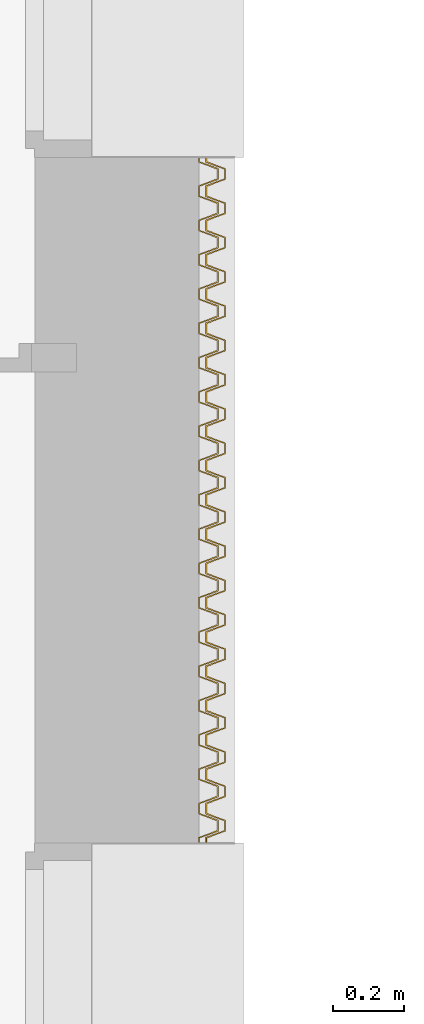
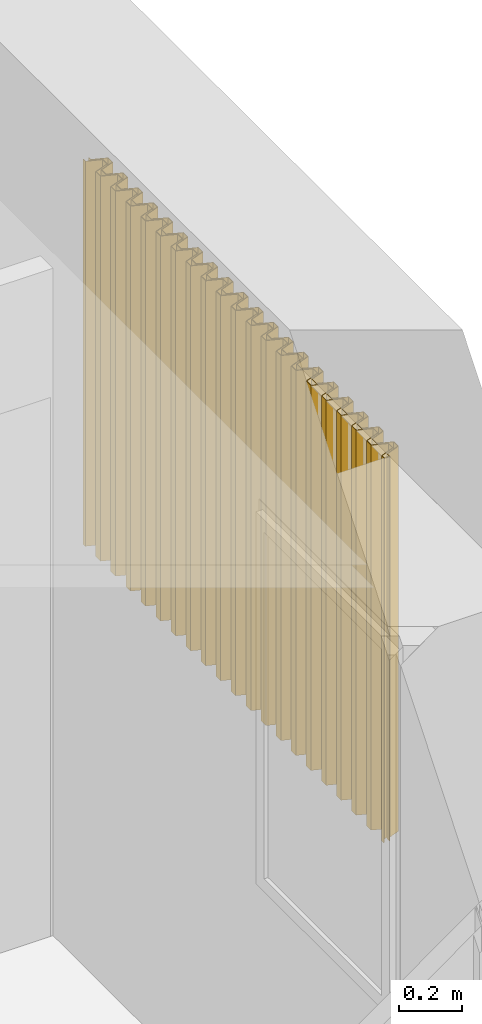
# One storey, part 84 of 91: 2 coverings.
"""IFC2X3 building model written with IfcOpenShell, lengths in metres."""

from ifc_helpers import new_model, entity, si_unit, converted_unit, derived_unit, money_unit, direction, frame, origin_with_axes, place, context, subcontext, project, spatial, faceted_brep, source, transform, mapped, material, type_object, element, save


model = new_model("IFC2X3")

# Units and contexts
model_context = context("Model", 3, precision=1e-05, world=origin_with_axes(), true_north=direction((0.0, 1.0)))
body_context = subcontext(model_context, "Body", "Model", "MODEL_VIEW")
ifc_project = project(units=[si_unit("LENGTHUNIT", "METRE"), si_unit("AREAUNIT", "SQUARE_METRE"), si_unit("VOLUMEUNIT", "CUBIC_METRE"), converted_unit("PLANEANGLEUNIT", "DEGREE", entity("IfcPlaneAngleMeasure", 0.0174532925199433), si_unit("PLANEANGLEUNIT", "RADIAN"), dimensions=[0, 0, 0, 0, 0, 0, 0]), money_unit("EUR"), converted_unit("TIMEUNIT", "Year", entity("IfcTimeMeasure", 31557600.0), si_unit("TIMEUNIT", "SECOND"), dimensions=[0, 0, 1, 0, 0, 0, 0]), si_unit("MASSUNIT", "GRAM", prefix="KILO"), si_unit("THERMODYNAMICTEMPERATUREUNIT", "DEGREE_CELSIUS"), si_unit("LUMINOUSINTENSITYUNIT", "LUMEN"), si_unit("ENERGYUNIT", "JOULE", prefix="MEGA"), derived_unit("THERMALCONDUCTANCEUNIT", [(si_unit("POWERUNIT", "WATT"), 1), (si_unit("LENGTHUNIT", "METRE"), -1), (si_unit("THERMODYNAMICTEMPERATUREUNIT", "KELVIN"), -1)]), derived_unit("SPECIFICHEATCAPACITYUNIT", [(si_unit("ENERGYUNIT", "JOULE"), 1), (si_unit("MASSUNIT", "GRAM", prefix="KILO"), -1), (si_unit("THERMODYNAMICTEMPERATUREUNIT", "KELVIN"), -1)]), derived_unit("MASSDENSITYUNIT", [(si_unit("MASSUNIT", "GRAM", prefix="KILO"), 1), (si_unit("VOLUMEUNIT", "CUBIC_METRE"), -1)])], contexts=[model_context])

# Site, building, storey
site_placement = place(None, origin_with_axes())
site = spatial("IfcSite", under=ifc_project, at=site_placement, Name="Site", CompositionType="ELEMENT")
building_placement = place(site_placement, origin_with_axes())
building = spatial("IfcBuilding", under=site, at=building_placement, Name="Bâtiment", CompositionType="ELEMENT")
storey_placement = place(building_placement, origin_with_axes())
storey = spatial("IfcBuildingStorey", under=building, at=storey_placement, Name="RDC", CompositionType="ELEMENT", Elevation=0.0)

# Coverings
ifc_material = material(Name="Métal - Acier")
covering_type = type_object("IfcCoveringType", Name="Tôle profilée 27", PredefinedType="NOTDEFINED")
shared_shape = source(origin_with_axes(), body_context, "Body", "Brep", [
    faceted_brep([(0.0, 0.0, 0.0), (0.0, 0.0, 1.5), (0.0, 0.01500000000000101, 1.5), (0.0, 0.01500000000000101, 0.0), (0.002, 0.0, 0.0), (0.002, 0.0, 1.5), (0.001999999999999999, 0.0136112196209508, 1.5), (0.05399999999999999, 0.0329999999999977, 1.5), (0.05399999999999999, 0.06299999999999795, 1.5), (0.001999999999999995, 0.0823887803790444, 1.5), (0.001999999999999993, 0.1096112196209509, 1.5), (0.05399999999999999, 0.1289999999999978, 1.5), (0.05399999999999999, 0.158999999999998, 1.5), (0.001999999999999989, 0.1783887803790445, 1.5), (0.001999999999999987, 0.205611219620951, 1.5), (0.05399999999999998, 0.2249999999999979, 1.5), (0.05399999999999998, 0.2549999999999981, 1.5), (0.001999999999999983, 0.2743887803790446, 1.5), (0.001999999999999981, 0.3016112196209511, 1.5), (0.05399999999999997, 0.320999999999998, 1.5), (0.05399999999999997, 0.3509999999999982, 1.5), (0.001999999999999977, 0.3703887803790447, 1.5), (0.001999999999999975, 0.3976112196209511, 1.5), (0.05399999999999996, 0.416999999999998, 1.5), (0.05399999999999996, 0.4469999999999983, 1.5), (0.001999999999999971, 0.4663887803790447, 1.5), (0.00199999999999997, 0.4936112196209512, 1.5), (0.05399999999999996, 0.5129999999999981, 1.5), (0.05399999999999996, 0.5429999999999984, 1.5), (0.001999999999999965, 0.5623887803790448, 1.5), (0.001999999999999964, 0.5896112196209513, 1.5), (0.05399999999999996, 0.6089999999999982, 1.5), (0.05399999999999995, 0.6389999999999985, 1.5), (0.00199999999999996, 0.6583887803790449, 1.5), (0.001999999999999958, 0.6856112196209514, 1.5), (0.05399999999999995, 0.7049999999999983, 1.5), (0.05399999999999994, 0.7349999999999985, 1.5), (0.001999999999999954, 0.754388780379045, 1.5), (0.001999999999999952, 0.7816112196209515, 1.5), (0.05399999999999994, 0.8009999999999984, 1.5), (0.05399999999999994, 0.8309999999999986, 1.5), (0.001999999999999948, 0.8503887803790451, 1.5), (0.001999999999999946, 0.8776112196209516, 1.5), (0.05399999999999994, 0.8969999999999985, 1.5), (0.05399999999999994, 0.9269999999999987, 1.5), (0.001999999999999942, 0.9463887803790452, 1.5), (0.00199999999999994, 0.9736112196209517, 1.5), (0.05399999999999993, 0.9929999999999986, 1.5), (0.05399999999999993, 1.022999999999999, 1.5), (0.001999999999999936, 1.042388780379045, 1.5), (0.001999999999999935, 1.069611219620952, 1.5), (0.05399999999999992, 1.088999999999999, 1.5), (0.05399999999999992, 1.118999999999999, 1.5), (0.00199999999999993, 1.138388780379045, 1.5), (0.001999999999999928, 1.165611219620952, 1.5), (0.05399999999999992, 1.184999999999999, 1.5), (0.05399999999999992, 1.214999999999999, 1.5), (0.001999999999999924, 1.234388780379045, 1.5), (0.001999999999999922, 1.261611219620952, 1.5), (0.05399999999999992, 1.280999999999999, 1.5), (0.05399999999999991, 1.310999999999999, 1.5), (0.001999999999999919, 1.330388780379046, 1.5), (0.001999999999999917, 1.357611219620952, 1.5), (0.05399999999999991, 1.376999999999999, 1.5), (0.05399999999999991, 1.406999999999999, 1.5), (0.001999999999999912, 1.426388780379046, 1.5), (0.001999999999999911, 1.453611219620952, 1.5), (0.0539999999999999, 1.472999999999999, 1.5), (0.0539999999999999, 1.502999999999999, 1.5), (0.001999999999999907, 1.522388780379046, 1.5), (0.001999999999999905, 1.549611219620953, 1.5), (0.0539999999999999, 1.569, 1.5), (0.0539999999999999, 1.598999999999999, 1.5), (0.001999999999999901, 1.618388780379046, 1.5), (0.001999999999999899, 1.645611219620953, 1.5), (0.05399999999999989, 1.665, 1.5), (0.05399999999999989, 1.694999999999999, 1.5), (0.001999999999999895, 1.714388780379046, 1.5), (0.001999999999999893, 1.741611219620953, 1.5), (0.05399999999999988, 1.761, 1.5), (0.05399999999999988, 1.790999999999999, 1.5), (0.001999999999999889, 1.810388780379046, 1.5), (0.001999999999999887, 1.837611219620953, 1.5), (0.05399999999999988, 1.857, 1.5), (0.05399999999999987, 1.886999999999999, 1.5), (0.001999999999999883, 1.906388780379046, 1.5), (0.001999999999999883, 1.919160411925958, 1.5), (0.0, 1.919160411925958, 1.5), (0.0, 1.905000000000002, 1.5), (0.05199999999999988, 1.885611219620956, 1.5), (0.05199999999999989, 1.858388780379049, 1.5), (0.0, 1.839000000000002, 1.5), (0.0, 1.809000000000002, 1.5), (0.05199999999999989, 1.789611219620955, 1.5), (0.05199999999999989, 1.762388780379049, 1.5), (0.0, 1.743000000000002, 1.5), (0.0, 1.713000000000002, 1.5), (0.05199999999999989, 1.693611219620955, 1.5), (0.05199999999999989, 1.666388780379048, 1.5), (0.0, 1.647000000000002, 1.5), (0.0, 1.617000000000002, 1.5), (0.0519999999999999, 1.597611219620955, 1.5), (0.0519999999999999, 1.570388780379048, 1.5), (0.0, 1.551000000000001, 1.5), (0.0, 1.521000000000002, 1.5), (0.05199999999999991, 1.501611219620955, 1.5), (0.05199999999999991, 1.474388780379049, 1.5), (0.0, 1.455000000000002, 1.5), (0.0, 1.425000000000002, 1.5), (0.05199999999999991, 1.405611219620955, 1.5), (0.05199999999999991, 1.378388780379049, 1.5), (0.0, 1.359000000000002, 1.5), (0.0, 1.329000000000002, 1.5), (0.05199999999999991, 1.309611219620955, 1.5), (0.05199999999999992, 1.282388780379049, 1.5), (0.0, 1.263000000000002, 1.5), (0.0, 1.233000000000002, 1.5), (0.05199999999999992, 1.213611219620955, 1.5), (0.05199999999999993, 1.186388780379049, 1.5), (0.0, 1.167000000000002, 1.5), (0.0, 1.137000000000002, 1.5), (0.05199999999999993, 1.117611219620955, 1.5), (0.05199999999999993, 1.090388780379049, 1.5), (0.0, 1.071000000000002, 1.5), (0.0, 1.041000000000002, 1.5), (0.05199999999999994, 1.021611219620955, 1.5), (0.05199999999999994, 0.9943887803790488, 1.5), (0.0, 0.9750000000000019, 1.5), (0.0, 0.9450000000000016, 1.5), (0.05199999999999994, 0.9256112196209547, 1.5), (0.05199999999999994, 0.8983887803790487, 1.5), (0.0, 0.8790000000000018, 1.5), (0.0, 0.8490000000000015, 1.5), (0.05199999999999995, 0.8296112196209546, 1.5), (0.05199999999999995, 0.8023887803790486, 1.5), (0.0, 0.7830000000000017, 1.5), (0.0, 0.7530000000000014, 1.5), (0.05199999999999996, 0.7336112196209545, 1.5), (0.05199999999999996, 0.7063887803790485, 1.5), (0.0, 0.6870000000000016, 1.5), (0.0, 0.6570000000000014, 1.5), (0.05199999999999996, 0.6376112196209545, 1.5), (0.05199999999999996, 0.6103887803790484, 1.5), (0.0, 0.5910000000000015, 1.5), (0.0, 0.5610000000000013, 1.5), (0.05199999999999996, 0.5416112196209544, 1.5), (0.05199999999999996, 0.5143887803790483, 1.5), (0.0, 0.4950000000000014, 1.5), (0.0, 0.4650000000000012, 1.5), (0.05199999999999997, 0.4456112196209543, 1.5), (0.05199999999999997, 0.4183887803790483, 1.5), (0.0, 0.3990000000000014, 1.5), (0.0, 0.3690000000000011, 1.5), (0.05199999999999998, 0.3496112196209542, 1.5), (0.05199999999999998, 0.3223887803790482, 1.5), (0.0, 0.3030000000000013, 1.5), (0.0, 0.273000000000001, 1.5), (0.05199999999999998, 0.2536112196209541, 1.5), (0.05199999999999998, 0.2263887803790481, 1.5), (0.0, 0.2070000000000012, 1.5), (0.0, 0.1770000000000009, 1.5), (0.05199999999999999, 0.157611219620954, 1.5), (0.05199999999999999, 0.130388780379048, 1.5), (0.0, 0.1110000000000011, 1.5), (0.0, 0.08100000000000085, 1.5), (0.05199999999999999, 0.06161121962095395, 1.5), (0.052, 0.03438878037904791, 1.5), (0.052, 0.03438878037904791, 0.0), (0.05199999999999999, 0.06161121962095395, 0.0), (0.0, 0.08100000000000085, 0.0), (0.0, 0.1110000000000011, 0.0), (0.05199999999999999, 0.130388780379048, 0.0), (0.05199999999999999, 0.157611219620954, 0.0), (0.0, 0.1770000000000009, 0.0), (0.0, 0.2070000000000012, 0.0), (0.05199999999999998, 0.2263887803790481, 0.0), (0.05199999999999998, 0.2536112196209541, 0.0), (0.0, 0.273000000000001, 0.0), (0.0, 0.3030000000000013, 0.0), (0.05199999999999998, 0.3223887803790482, 0.0), (0.05199999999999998, 0.3496112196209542, 0.0), (0.0, 0.3690000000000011, 0.0), (0.0, 0.3990000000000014, 0.0), (0.05199999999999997, 0.4183887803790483, 0.0), (0.05199999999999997, 0.4456112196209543, 0.0), (0.0, 0.4650000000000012, 0.0), (0.0, 0.4950000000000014, 0.0), (0.05199999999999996, 0.5143887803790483, 0.0), (0.05199999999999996, 0.5416112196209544, 0.0), (0.0, 0.5610000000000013, 0.0), (0.0, 0.5910000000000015, 0.0), (0.05199999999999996, 0.6103887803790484, 0.0), (0.05199999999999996, 0.6376112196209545, 0.0), (0.0, 0.6570000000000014, 0.0), (0.0, 0.6870000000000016, 0.0), (0.05199999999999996, 0.7063887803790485, 0.0), (0.05199999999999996, 0.7336112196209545, 0.0), (0.0, 0.7530000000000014, 0.0), (0.0, 0.7830000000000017, 0.0), (0.05199999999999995, 0.8023887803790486, 0.0), (0.05199999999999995, 0.8296112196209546, 0.0), (0.0, 0.8490000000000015, 0.0), (0.0, 0.8790000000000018, 0.0), (0.05199999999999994, 0.8983887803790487, 0.0), (0.05199999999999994, 0.9256112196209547, 0.0), (0.0, 0.9450000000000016, 0.0), (0.0, 0.9750000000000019, 0.0), (0.05199999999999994, 0.9943887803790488, 0.0), (0.05199999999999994, 1.021611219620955, 0.0), (0.0, 1.041000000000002, 0.0), (0.0, 1.071000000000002, 0.0), (0.05199999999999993, 1.090388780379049, 0.0), (0.05199999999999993, 1.117611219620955, 0.0), (0.0, 1.137000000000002, 0.0), (0.0, 1.167000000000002, 0.0), (0.05199999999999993, 1.186388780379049, 0.0), (0.05199999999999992, 1.213611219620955, 0.0), (0.0, 1.233000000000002, 0.0), (0.0, 1.263000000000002, 0.0), (0.05199999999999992, 1.282388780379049, 0.0), (0.05199999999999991, 1.309611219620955, 0.0), (0.0, 1.329000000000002, 0.0), (0.0, 1.359000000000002, 0.0), (0.05199999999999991, 1.378388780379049, 0.0), (0.05199999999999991, 1.405611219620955, 0.0), (0.0, 1.425000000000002, 0.0), (0.0, 1.455000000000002, 0.0), (0.05199999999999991, 1.474388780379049, 0.0), (0.05199999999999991, 1.501611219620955, 0.0), (0.0, 1.521000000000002, 0.0), (0.0, 1.551000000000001, 0.0), (0.0519999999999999, 1.570388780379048, 0.0), (0.0519999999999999, 1.597611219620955, 0.0), (0.0, 1.617000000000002, 0.0), (0.0, 1.647000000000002, 0.0), (0.05199999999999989, 1.666388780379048, 0.0), (0.05199999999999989, 1.693611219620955, 0.0), (0.0, 1.713000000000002, 0.0), (0.0, 1.743000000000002, 0.0), (0.05199999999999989, 1.762388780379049, 0.0), (0.05199999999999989, 1.789611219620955, 0.0), (0.0, 1.809000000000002, 0.0), (0.0, 1.839000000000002, 0.0), (0.05199999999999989, 1.858388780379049, 0.0), (0.05199999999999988, 1.885611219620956, 0.0), (0.0, 1.905000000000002, 0.0), (0.0, 1.919160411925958, 0.0), (0.001999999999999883, 1.919160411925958, 0.0), (0.001999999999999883, 1.906388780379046, 0.0), (0.05399999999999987, 1.886999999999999, 0.0), (0.05399999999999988, 1.857, 0.0), (0.001999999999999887, 1.837611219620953, 0.0), (0.001999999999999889, 1.810388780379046, 0.0), (0.05399999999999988, 1.790999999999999, 0.0), (0.05399999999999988, 1.761, 0.0), (0.001999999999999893, 1.741611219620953, 0.0), (0.001999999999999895, 1.714388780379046, 0.0), (0.05399999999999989, 1.694999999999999, 0.0), (0.05399999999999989, 1.665, 0.0), (0.001999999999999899, 1.645611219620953, 0.0), (0.001999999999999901, 1.618388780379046, 0.0), (0.0539999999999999, 1.598999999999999, 0.0), (0.0539999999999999, 1.569, 0.0), (0.001999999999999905, 1.549611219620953, 0.0), (0.001999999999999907, 1.522388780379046, 0.0), (0.0539999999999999, 1.502999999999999, 0.0), (0.0539999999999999, 1.472999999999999, 0.0), (0.001999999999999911, 1.453611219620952, 0.0), (0.001999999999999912, 1.426388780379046, 0.0), (0.05399999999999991, 1.406999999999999, 0.0), (0.05399999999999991, 1.376999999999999, 0.0), (0.001999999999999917, 1.357611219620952, 0.0), (0.001999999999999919, 1.330388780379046, 0.0), (0.05399999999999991, 1.310999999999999, 0.0), (0.05399999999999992, 1.280999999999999, 0.0), (0.001999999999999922, 1.261611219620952, 0.0), (0.001999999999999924, 1.234388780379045, 0.0), (0.05399999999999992, 1.214999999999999, 0.0), (0.05399999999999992, 1.184999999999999, 0.0), (0.001999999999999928, 1.165611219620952, 0.0), (0.00199999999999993, 1.138388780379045, 0.0), (0.05399999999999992, 1.118999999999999, 0.0), (0.05399999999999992, 1.088999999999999, 0.0), (0.001999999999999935, 1.069611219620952, 0.0), (0.001999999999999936, 1.042388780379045, 0.0), (0.05399999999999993, 1.022999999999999, 0.0), (0.05399999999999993, 0.9929999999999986, 0.0), (0.00199999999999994, 0.9736112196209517, 0.0), (0.001999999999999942, 0.9463887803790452, 0.0), (0.05399999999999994, 0.9269999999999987, 0.0), (0.05399999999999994, 0.8969999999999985, 0.0), (0.001999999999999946, 0.8776112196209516, 0.0), (0.001999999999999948, 0.8503887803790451, 0.0), (0.05399999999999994, 0.8309999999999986, 0.0), (0.05399999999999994, 0.8009999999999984, 0.0), (0.001999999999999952, 0.7816112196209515, 0.0), (0.001999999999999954, 0.754388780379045, 0.0), (0.05399999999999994, 0.7349999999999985, 0.0), (0.05399999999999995, 0.7049999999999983, 0.0), (0.001999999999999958, 0.6856112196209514, 0.0), (0.00199999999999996, 0.6583887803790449, 0.0), (0.05399999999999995, 0.6389999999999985, 0.0), (0.05399999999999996, 0.6089999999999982, 0.0), (0.001999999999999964, 0.5896112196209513, 0.0), (0.001999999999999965, 0.5623887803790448, 0.0), (0.05399999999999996, 0.5429999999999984, 0.0), (0.05399999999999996, 0.5129999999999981, 0.0), (0.00199999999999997, 0.4936112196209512, 0.0), (0.001999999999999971, 0.4663887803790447, 0.0), (0.05399999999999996, 0.4469999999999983, 0.0), (0.05399999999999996, 0.416999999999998, 0.0), (0.001999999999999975, 0.3976112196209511, 0.0), (0.001999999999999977, 0.3703887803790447, 0.0), (0.05399999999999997, 0.3509999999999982, 0.0), (0.05399999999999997, 0.320999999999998, 0.0), (0.001999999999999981, 0.3016112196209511, 0.0), (0.001999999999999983, 0.2743887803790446, 0.0), (0.05399999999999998, 0.2549999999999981, 0.0), (0.05399999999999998, 0.2249999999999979, 0.0), (0.001999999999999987, 0.205611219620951, 0.0), (0.001999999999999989, 0.1783887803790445, 0.0), (0.05399999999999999, 0.158999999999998, 0.0), (0.05399999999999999, 0.1289999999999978, 0.0), (0.001999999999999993, 0.1096112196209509, 0.0), (0.001999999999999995, 0.0823887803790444, 0.0), (0.05399999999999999, 0.06299999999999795, 0.0), (0.05399999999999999, 0.0329999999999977, 0.0), (0.001999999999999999, 0.0136112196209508, 0.0)], [[[0, 1, 2, 3]], [[0, 4, 5, 1]], [[2, 1, 5, 6, 7, 8, 9, 10, 11, 12, 13, 14, 15, 16, 17, 18, 19, 20, 21, 22, 23, 24, 25, 26, 27, 28, 29, 30, 31, 32, 33, 34, 35, 36, 37, 38, 39, 40, 41, 42, 43, 44, 45, 46, 47, 48, 49, 50, 51, 52, 53, 54, 55, 56, 57, 58, 59, 60, 61, 62, 63, 64, 65, 66, 67, 68, 69, 70, 71, 72, 73, 74, 75, 76, 77, 78, 79, 80, 81, 82, 83, 84, 85, 86, 87, 88, 89, 90, 91, 92, 93, 94, 95, 96, 97, 98, 99, 100, 101, 102, 103, 104, 105, 106, 107, 108, 109, 110, 111, 112, 113, 114, 115, 116, 117, 118, 119, 120, 121, 122, 123, 124, 125, 126, 127, 128, 129, 130, 131, 132, 133, 134, 135, 136, 137, 138, 139, 140, 141, 142, 143, 144, 145, 146, 147, 148, 149, 150, 151, 152, 153, 154, 155, 156, 157, 158, 159, 160, 161, 162, 163, 164, 165, 166]], [[3, 2, 166, 167]], [[4, 0, 3, 167, 168, 169, 170, 171, 172, 173, 174, 175, 176, 177, 178, 179, 180, 181, 182, 183, 184, 185, 186, 187, 188, 189, 190, 191, 192, 193, 194, 195, 196, 197, 198, 199, 200, 201, 202, 203, 204, 205, 206, 207, 208, 209, 210, 211, 212, 213, 214, 215, 216, 217, 218, 219, 220, 221, 222, 223, 224, 225, 226, 227, 228, 229, 230, 231, 232, 233, 234, 235, 236, 237, 238, 239, 240, 241, 242, 243, 244, 245, 246, 247, 248, 249, 250, 251, 252, 253, 254, 255, 256, 257, 258, 259, 260, 261, 262, 263, 264, 265, 266, 267, 268, 269, 270, 271, 272, 273, 274, 275, 276, 277, 278, 279, 280, 281, 282, 283, 284, 285, 286, 287, 288, 289, 290, 291, 292, 293, 294, 295, 296, 297, 298, 299, 300, 301, 302, 303, 304, 305, 306, 307, 308, 309, 310, 311, 312, 313, 314, 315, 316, 317, 318, 319, 320, 321, 322, 323, 324, 325, 326, 327]], [[327, 6, 5, 4]], [[326, 7, 6, 327]], [[325, 8, 7, 326]], [[324, 9, 8, 325]], [[323, 10, 9, 324]], [[322, 11, 10, 323]], [[321, 12, 11, 322]], [[320, 13, 12, 321]], [[319, 14, 13, 320]], [[318, 15, 14, 319]], [[317, 16, 15, 318]], [[316, 17, 16, 317]], [[315, 18, 17, 316]], [[314, 19, 18, 315]], [[313, 20, 19, 314]], [[312, 21, 20, 313]], [[311, 22, 21, 312]], [[310, 23, 22, 311]], [[309, 24, 23, 310]], [[308, 25, 24, 309]], [[307, 26, 25, 308]], [[306, 27, 26, 307]], [[305, 28, 27, 306]], [[304, 29, 28, 305]], [[303, 30, 29, 304]], [[302, 31, 30, 303]], [[301, 32, 31, 302]], [[300, 33, 32, 301]], [[299, 34, 33, 300]], [[298, 35, 34, 299]], [[297, 36, 35, 298]], [[296, 37, 36, 297]], [[295, 38, 37, 296]], [[294, 39, 38, 295]], [[293, 40, 39, 294]], [[292, 41, 40, 293]], [[291, 42, 41, 292]], [[290, 43, 42, 291]], [[289, 44, 43, 290]], [[288, 45, 44, 289]], [[287, 46, 45, 288]], [[286, 47, 46, 287]], [[285, 48, 47, 286]], [[284, 49, 48, 285]], [[283, 50, 49, 284]], [[282, 51, 50, 283]], [[281, 52, 51, 282]], [[280, 53, 52, 281]], [[279, 54, 53, 280]], [[278, 55, 54, 279]], [[277, 56, 55, 278]], [[276, 57, 56, 277]], [[275, 58, 57, 276]], [[274, 59, 58, 275]], [[273, 60, 59, 274]], [[272, 61, 60, 273]], [[271, 62, 61, 272]], [[270, 63, 62, 271]], [[269, 64, 63, 270]], [[268, 65, 64, 269]], [[267, 66, 65, 268]], [[266, 67, 66, 267]], [[265, 68, 67, 266]], [[264, 69, 68, 265]], [[263, 70, 69, 264]], [[262, 71, 70, 263]], [[261, 72, 71, 262]], [[260, 73, 72, 261]], [[259, 74, 73, 260]], [[258, 75, 74, 259]], [[257, 76, 75, 258]], [[256, 77, 76, 257]], [[255, 78, 77, 256]], [[254, 79, 78, 255]], [[253, 80, 79, 254]], [[252, 81, 80, 253]], [[251, 82, 81, 252]], [[250, 83, 82, 251]], [[249, 84, 83, 250]], [[248, 85, 84, 249]], [[247, 86, 85, 248]], [[246, 87, 86, 247]], [[245, 88, 87, 246]], [[244, 89, 88, 245]], [[243, 90, 89, 244]], [[242, 91, 90, 243]], [[241, 92, 91, 242]], [[240, 93, 92, 241]], [[239, 94, 93, 240]], [[238, 95, 94, 239]], [[237, 96, 95, 238]], [[236, 97, 96, 237]], [[235, 98, 97, 236]], [[234, 99, 98, 235]], [[233, 100, 99, 234]], [[232, 101, 100, 233]], [[231, 102, 101, 232]], [[230, 103, 102, 231]], [[229, 104, 103, 230]], [[228, 105, 104, 229]], [[227, 106, 105, 228]], [[226, 107, 106, 227]], [[225, 108, 107, 226]], [[224, 109, 108, 225]], [[223, 110, 109, 224]], [[222, 111, 110, 223]], [[221, 112, 111, 222]], [[220, 113, 112, 221]], [[219, 114, 113, 220]], [[218, 115, 114, 219]], [[217, 116, 115, 218]], [[216, 117, 116, 217]], [[215, 118, 117, 216]], [[214, 119, 118, 215]], [[213, 120, 119, 214]], [[212, 121, 120, 213]], [[211, 122, 121, 212]], [[210, 123, 122, 211]], [[209, 124, 123, 210]], [[208, 125, 124, 209]], [[207, 126, 125, 208]], [[206, 127, 126, 207]], [[205, 128, 127, 206]], [[204, 129, 128, 205]], [[203, 130, 129, 204]], [[202, 131, 130, 203]], [[201, 132, 131, 202]], [[200, 133, 132, 201]], [[199, 134, 133, 200]], [[198, 135, 134, 199]], [[197, 136, 135, 198]], [[196, 137, 136, 197]], [[195, 138, 137, 196]], [[194, 139, 138, 195]], [[193, 140, 139, 194]], [[192, 141, 140, 193]], [[191, 142, 141, 192]], [[190, 143, 142, 191]], [[189, 144, 143, 190]], [[188, 145, 144, 189]], [[187, 146, 145, 188]], [[186, 147, 146, 187]], [[185, 148, 147, 186]], [[184, 149, 148, 185]], [[183, 150, 149, 184]], [[182, 151, 150, 183]], [[181, 152, 151, 182]], [[180, 153, 152, 181]], [[179, 154, 153, 180]], [[178, 155, 154, 179]], [[177, 156, 155, 178]], [[176, 157, 156, 177]], [[175, 158, 157, 176]], [[174, 159, 158, 175]], [[173, 160, 159, 174]], [[172, 161, 160, 173]], [[171, 162, 161, 172]], [[170, 163, 162, 171]], [[169, 164, 163, 170]], [[168, 165, 164, 169]], [[167, 166, 165, 168]]]),
])
for number, where, z_axis, x_axis, name in (
    (1, (60.27800000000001, -16.91222254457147, 1.000000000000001), (0.0, 0.0, 1.0), (0.9999999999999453, 3.309421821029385e-07, 0.0), "PLACE STATIONNEMENT PMR"),
    (2, (60.258, -16.91222254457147, 1.0), (0.0, 0.0, 1.0), (0.9999999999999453, 3.309421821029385e-07, 0.0), "PLACE STATIONNEMENT PMR"),
):
    element("IfcCovering", number, at=place(storey_placement, frame(where, z_axis=z_axis, x_axis=x_axis)), inside=storey, type_object=covering_type, material=ifc_material, Name=name, PredefinedType="NOTDEFINED", context=body_context, shape_type="MappedRepresentation", body=[
        mapped(shared_shape, transform((0.0, 0.0, 0.0))),
    ])

save(model, "model.ifc")
